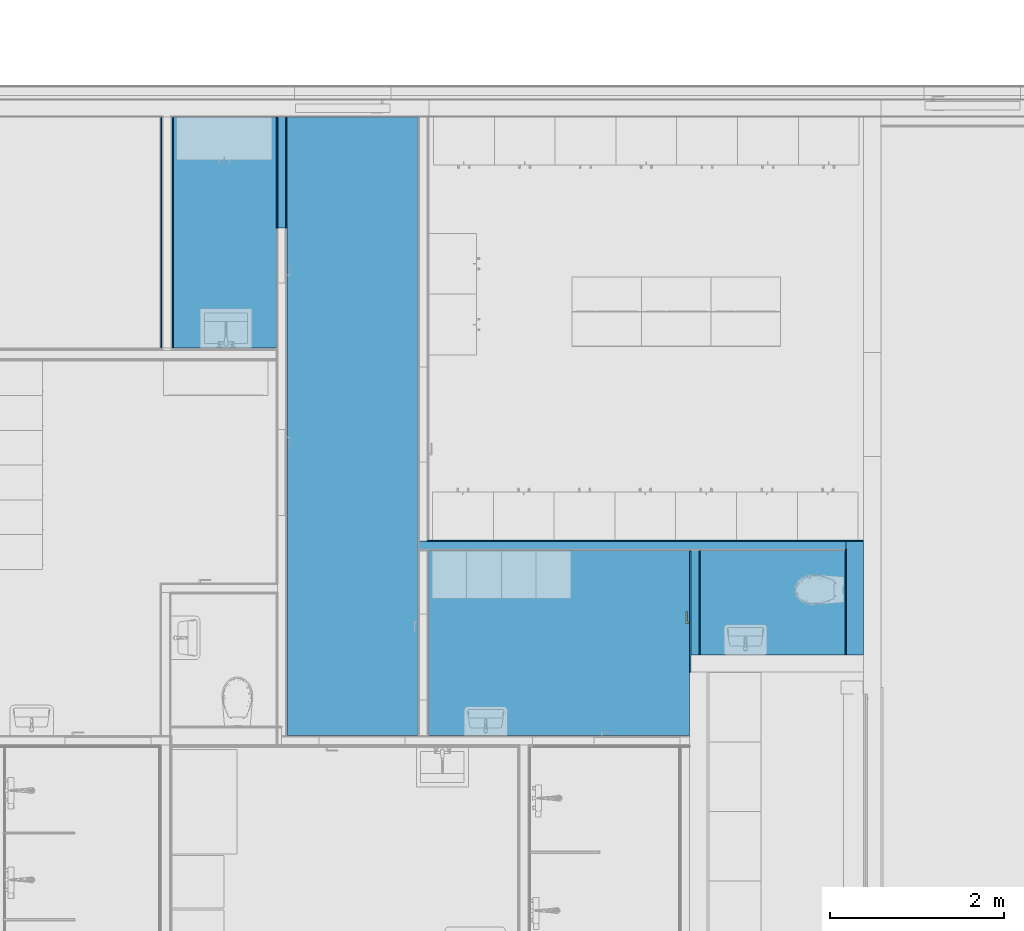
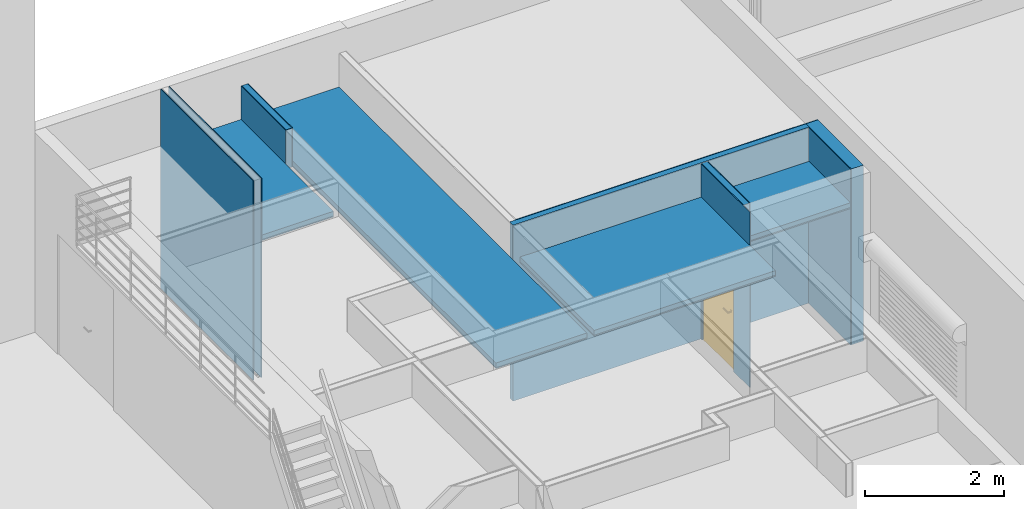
# One storey, part 9 of 67: 20 building element parts, 1 door, 1 opening, 9 elements without a shape of their own.
"""IFC4 building model written with IfcOpenShell, lengths in millimetres."""

from ifc_helpers import new_model, entity, si_unit, converted_unit, direction, frame, origin, place, context, subcontext, project, spatial, indexed_curve, outline, extrude, polygons, source, transform, mapped, material, constituent, constituent_set, type_object, type_shapes, element, fill, aggregate, save


model = new_model("IFC4")

# Units and contexts
model_context = context("Model", 3, precision=0.01, world=origin(), true_north=direction((0.0, 1.0)))
body_context = subcontext(model_context, "Body", "Model", "MODEL_VIEW")
ifc_project = project(units=[si_unit("LENGTHUNIT", "METRE", prefix="MILLI"), si_unit("AREAUNIT", "SQUARE_METRE"), si_unit("VOLUMEUNIT", "CUBIC_METRE"), converted_unit("PLANEANGLEUNIT", "DEGREE", entity("IfcPlaneAngleMeasure", 0.017453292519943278), si_unit("PLANEANGLEUNIT", "RADIAN"), dimensions=[0, 0, 0, 0, 0, 0, 0])], contexts=[model_context])

# Site, building, storey
site_placement = place(None, origin())
site = spatial("IfcSite", under=ifc_project, at=site_placement, Name="Tomtens navn", CompositionType="ELEMENT")
building_placement = place(site_placement, origin())
building = spatial("IfcBuilding", under=site, at=building_placement, Name="Byggets navn", CompositionType="ELEMENT")
storey_placement = place(building_placement, origin())
storey = spatial("IfcBuildingStorey", under=building, at=storey_placement, Name="Level 01", CompositionType="ELEMENT", Elevation=2.1993652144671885e-25)

# Door
ifc_material_1 = material(Name="Rustfritt Stål", Category="Metal")
ifc_constituent_1 = constituent(ifc_material_1, Name="Rustfritt Stål", Category="Metal", fraction=0.0019857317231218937)
ifc_material_2 = material(Name="NO_Maling - Hvit", Category="Overflatebehandling")
ifc_constituent_2 = constituent(ifc_material_2, Name="NO_Maling - Hvit", Category="Overflatebehandling", fraction=0.7764080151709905)
ifc_material_3 = material(Name="Hvit", Category="Paint")
ifc_constituent_3 = constituent(ifc_material_3, Name="Hvit", Category="Paint", fraction=0.2216062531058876)
ifc_constituent_set_1 = constituent_set(constituents=[ifc_constituent_1, ifc_constituent_2, ifc_constituent_3])
ifc_constituent_4 = constituent(ifc_material_1, Name="Rustfritt Stål", Category="Metal", fraction=0.0019857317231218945)
ifc_constituent_5 = constituent(ifc_material_2, Name="Panel", Category="Overflatebehandling", fraction=0.7764080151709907)
ifc_constituent_6 = constituent(ifc_material_3, Name="Frame/Mullion", Category="Paint", fraction=0.22160625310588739)
ifc_constituent_set_2 = constituent_set(constituents=[ifc_constituent_4, ifc_constituent_5, ifc_constituent_6])
door_type = type_object("IfcDoorType", Name="Enfløyet:ID04 Tredør 9x21M", OperationType="SINGLE_SWING_RIGHT", PredefinedType="DOOR", material=ifc_constituent_set_2)
shared_shape = source(origin(), body_context, "Body", "SweptSolid", [
    extrude(outline(indexed_curve([(-50.833333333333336, -33.33333333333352), (-35.83333333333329, -33.33333333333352), (-35.8333333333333, 9.166666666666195), (86.66666666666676, 9.16666666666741), (86.66666666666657, 24.166666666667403), (-50.83333333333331, 24.16666666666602), (-50.833333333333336, -33.33333333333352)], self_intersect=False)), frame((141.33333333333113, 139.9410394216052, 980.5000000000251)), (0.0, 0.0, 1.0), 14.999999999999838),
    extrude(outline(indexed_curve([(-24.999999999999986, -2.7999999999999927), (25.000000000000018, -2.800000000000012), (24.999999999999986, 2.7999999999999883), (-24.99999999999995, 2.8000000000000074), (-24.999999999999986, -2.7999999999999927)], self_intersect=False)), frame((98.0, 103.80000000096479, 850.9862950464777), z_axis=(0.0, 0.0, 1.0), x_axis=(-1.0, 0.0, 0.0)), (0.0, 0.0, 1.0), 159.01370495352),
    extrude(outline(indexed_curve([(-33.33333333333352, -50.83333333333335), (24.16666666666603, -50.83333333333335), (24.166666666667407, 86.66666666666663), (9.166666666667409, 86.6666666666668), (9.16666666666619, -35.83333333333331), (-33.33333333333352, -35.83333333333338), (-33.33333333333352, -50.83333333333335)], self_intersect=False)), frame((141.33333333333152, 22.058960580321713, 980.5000000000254), z_axis=(0.0, 0.0, 1.0), x_axis=(0.0, -1.0, 0.0)), (0.0, 0.0, 1.0), 14.999999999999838),
    extrude(outline(indexed_curve([(-2.800000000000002, -25.00000000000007), (2.799999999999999, -25.00000000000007), (2.8000000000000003, 25.0), (-2.800000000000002, 24.999999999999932), (-2.800000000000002, -25.00000000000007)], self_intersect=False)), frame((98.0, 58.20000000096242, 850.9862950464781), z_axis=(0.0, 0.0, 1.0), x_axis=(0.0, 1.0, 0.0)), (0.0, 0.0, 1.0), 159.01370495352),
    extrude(outline(indexed_curve([(-20.0, -406.9999999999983), (20.0, -406.9999999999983), (20.0, 406.9999999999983), (-20.0, 406.9999999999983), (-20.0, -406.9999999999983)], self_intersect=False)), frame((455.0, 81.0, 10.0), z_axis=(0.0, 0.0, 1.0), x_axis=(0.0, 1.0, 0.0)), (0.0, 0.0, 1.0), 2042.0),
    extrude(outline(indexed_curve([(-1035.4999999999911, -444.9999999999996), (1054.4999999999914, -444.99999999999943), (1054.4999999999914, 444.99999999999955), (-1035.4999999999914, 444.99999999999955), (-1035.4999999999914, 406.9999999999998), (1016.4999999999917, 406.9999999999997), (1016.4999999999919, -406.99999999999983), (-1035.4999999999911, -406.9999999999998), (-1035.4999999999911, -444.9999999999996)], self_intersect=False)), frame((455.0, 1.0, 1035.4999999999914), z_axis=(0.0, 1.0, 0.0), x_axis=(0.0, 0.0, 1.0)), (0.0, 0.0, 1.0), 99.99999999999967),
])
type_shapes(door_type, [shared_shape])
wall_2_placement = place(storey_placement, frame((66683.35352810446, 16670.466456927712, 0.0), z_axis=(0.0, 0.0, 1.0), x_axis=(0.0, 1.0, 0.0)))
opening_placement = place(wall_2_placement, frame((270.0, -60.49999999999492, 0.0)))
door_placement = place(opening_placement, origin())
door = element("IfcDoor", 1, at=door_placement, inside=storey, type_object=door_type, material=ifc_constituent_set_1, Name="Enfløyet:ID04 Tredør 9x21M", OverallHeight=2110.000000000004, OverallWidth=909.9999999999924, PredefinedType="DOOR", context=body_context, shape_type="MappedRepresentation", body=[
    mapped(shared_shape, transform((0.0, 0.0, 0.0), scale=1.0)),
])

# Wall, building element parts
wall_type_1 = type_object("IfcWallType", Name="Basic Wall:IV03 Gips Stender Forestia 120mm", PredefinedType="STANDARD")
wall_1_placement = place(storey_placement, frame((68411.85352810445, 17930.966456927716, 0.0), z_axis=(0.0, 0.0, 1.0), x_axis=(-1.0, 0.0, 0.0)))
wall_1 = element("IfcWall", 2, at=wall_1_placement, inside=storey, type_object=wall_type_1, Name="Basic Wall:IV03 Gips Stender Forestia 120mm", PredefinedType="NOTDEFINED")
ifc_material_4 = material(Name="Stender", Category="Unassigned")
building_element_part_1_placement = place(wall_1_placement, origin())
building_element_part_1 = element("IfcBuildingElementPart", 3, at=building_element_part_1_placement, material=ifc_material_4, Name="Stender", context=body_context, shape_type="SweptSolid", body=[
    extrude(outline(indexed_curve([(-47.49999999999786, -2458.4999999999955), (47.500000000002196, -2458.4999999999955), (47.50000000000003, 2458.499999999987), (-47.50000000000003, 2458.499999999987), (-47.49999999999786, -2458.4999999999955)], self_intersect=False)), frame((2445.4999999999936, 0.0, 0.0), z_axis=(0.0, 0.0, 1.0), x_axis=(0.0, 1.0, 0.0)), (0.0, 0.0, 1.0), 3087.999999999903),
])
ifc_material_5 = material(Name="NO_platekledning forestia", Category="Tre")
building_element_part_2_placement = place(wall_1_placement, origin())
building_element_part_2 = element("IfcBuildingElementPart", 4, at=building_element_part_2_placement, material=ifc_material_5, Name="NO_platekledning forestia", context=body_context, shape_type="SweptSolid", body=[
    extrude(outline(indexed_curve([(-6.500000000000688, -2509.9999999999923), (6.500000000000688, -2509.9999999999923), (6.499999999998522, 2509.9999999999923), (-6.500000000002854, 2509.9999999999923), (-6.500000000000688, -2509.9999999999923)], self_intersect=False)), frame((2299.0, -54.0, 0.0), z_axis=(0.0, 0.0, 1.0), x_axis=(0.0, 1.0, 0.0)), (0.0, 0.0, 1.0), 3087.999999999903),
])
aggregate(wall_1, [building_element_part_1, building_element_part_2])

# Space
space_1_placement = place(storey_placement, origin())
space_1 = spatial("IfcSpace", under=storey, at=space_1_placement, CompositionType="ELEMENT", PredefinedType="NOTDEFINED")

# Covering, building element parts
covering_type = type_object("IfcCoveringType", Name="Compound Ceiling:H01 257_Systemhimling 600x600, tykkelse 100", PredefinedType="CEILING")
covering_1_placement = place(space_1_placement, origin())
covering_1 = element("IfcCovering", 5, at=covering_1_placement, inside=space_1, type_object=covering_type, Name="Compound Ceiling:H01 257_Systemhimling 600x600, tykkelse 100", PredefinedType="CEILING")
ifc_material_6 = material(Name="NO_Himling (type ikke bestemt)", Category="Diverse")
building_element_part_3_placement = place(covering_1_placement, origin())
building_element_part_3 = element("IfcBuildingElementPart", 6, at=building_element_part_3_placement, material=ifc_material_6, Name="NO_Himling (type ikke bestemt)", context=body_context, shape_type="SweptSolid", body=[
    extrude(outline(indexed_curve([(-1065.2500000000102, -1503.500000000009), (1065.2500000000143, -1503.500000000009), (1065.2500000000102, 1503.5000000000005), (-1065.2500000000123, 1503.5000000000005), (-1065.2500000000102, -1503.500000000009)], self_intersect=False)), frame((65119.35352810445, 16805.21645692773, 2420.0), z_axis=(0.0, 0.0, 1.0), x_axis=(0.0, -1.0, 0.0)), (0.0, 0.0, 1.0), 79.99999999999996),
])
ifc_material_7 = material(Name="NO_Himling 600x600", Category="Diverse")
building_element_part_4_placement = place(covering_1_placement, origin())
building_element_part_4 = element("IfcBuildingElementPart", 7, at=building_element_part_4_placement, material=ifc_material_7, Name="NO_Himling 600x600", context=body_context, shape_type="SweptSolid", body=[
    extrude(outline(indexed_curve([(-1065.2500000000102, -1503.500000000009), (1065.2500000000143, -1503.500000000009), (1065.2500000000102, 1503.5000000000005), (-1065.2500000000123, 1503.5000000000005), (-1065.2500000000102, -1503.500000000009)], self_intersect=False)), frame((65119.35352810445, 16805.21645692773, 2400.0), z_axis=(0.0, 0.0, 1.0), x_axis=(0.0, -1.0, 0.0)), (0.0, 0.0, 1.0), 20.000000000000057),
])
aggregate(covering_1, [building_element_part_3, building_element_part_4])

# Space
space_2_placement = place(storey_placement, origin())
space_2 = spatial("IfcSpace", under=storey, at=space_2_placement, CompositionType="ELEMENT", PredefinedType="NOTDEFINED")

# Covering, building element parts
covering_2_placement = place(space_2_placement, origin())
covering_2 = element("IfcCovering", 8, at=covering_2_placement, inside=space_2, type_object=covering_type, Name="Compound Ceiling:H01 257_Systemhimling 600x600, tykkelse 100", PredefinedType="CEILING")
building_element_part_5_placement = place(covering_2_placement, origin())
building_element_part_5 = element("IfcBuildingElementPart", 9, at=building_element_part_5_placement, material=ifc_material_6, Name="NO_Himling (type ikke bestemt)", context=body_context, shape_type="SweptSolid", body=[
    extrude(outline(indexed_curve([(-3560.7499999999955, -754.2499999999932), (3560.749999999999, -754.2499999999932), (3560.7499999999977, 754.2499999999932), (-3560.749999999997, 754.2499999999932), (-3560.7499999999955, -754.2499999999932)], self_intersect=False)), frame((62740.60352810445, 19300.716456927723, 2420.0), z_axis=(0.0, 0.0, 1.0), x_axis=(0.0, -1.0, 0.0)), (0.0, 0.0, 1.0), 79.99999999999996),
])
building_element_part_6_placement = place(covering_2_placement, origin())
building_element_part_6 = element("IfcBuildingElementPart", 10, at=building_element_part_6_placement, material=ifc_material_7, Name="NO_Himling 600x600", context=body_context, shape_type="SweptSolid", body=[
    extrude(outline(indexed_curve([(-3560.7499999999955, -754.2499999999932), (3560.749999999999, -754.2499999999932), (3560.7499999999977, 754.2499999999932), (-3560.749999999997, 754.2499999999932), (-3560.7499999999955, -754.2499999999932)], self_intersect=False)), frame((62740.60352810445, 19300.716456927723, 2400.0), z_axis=(0.0, 0.0, 1.0), x_axis=(0.0, -1.0, 0.0)), (0.0, 0.0, 1.0), 20.000000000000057),
])
aggregate(covering_2, [building_element_part_5, building_element_part_6])

# Wall, opening
wall_type_2 = type_object("IfcWallType", Name="Basic Wall:IV02 Gips Stender Gips-120mm", PredefinedType="STANDARD")
wall_2 = element("IfcWall", 11, at=wall_2_placement, inside=storey, type_object=wall_type_2, Name="Basic Wall:IV02 Gips Stender Gips-120mm", PredefinedType="NOTDEFINED")
opening = element("IfcOpeningElement", 12, at=opening_placement, cuts=wall_2, Name="Enfløyet:ID04 Tredør 9x21M:1", PredefinedType="OPENING", context=body_context, shape_type="SweptSolid", body=[
    extrude(outline(indexed_curve([(0.0, 909.9999999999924), (0.0, -7.845706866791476e-30), (2110.000000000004, -7.845706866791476e-30), (2110.000000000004, 909.9999999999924), (0.0, 909.9999999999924)], self_intersect=False)), frame((0.0, 0.0, 0.0), z_axis=(0.0, 1.0, 0.0), x_axis=(0.0, 0.0, 1.0)), (0.0, 0.0, 1.0), 120.99999999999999),
])

fill(opening, door)

# Building element part
building_element_part_7_placement = place(wall_2_placement, frame((0.0, 47.49999999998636, 0.0)))
building_element_part_7 = element("IfcBuildingElementPart", 13, at=building_element_part_7_placement, material=ifc_material_4, Name="Stender", context=body_context, shape_type="Tessellation", body=[
    polygons([(270.0000000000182, 1.1586655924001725e-12, 7.331217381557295e-26), (0.0, 9.082677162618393e-13, 7.331217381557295e-26), (0.0, 9.082677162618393e-13, 3079.9999999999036), (1213.0000000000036, 2.0332033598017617e-12, 3079.9999999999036), (1213.0000000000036, 2.0332033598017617e-12, 7.331217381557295e-26), (1180.000000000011, 2.0025991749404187e-12, 7.331217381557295e-26), (1180.0000000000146, 2.002599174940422e-12, 2110.000000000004), (270.0000000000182, 1.1586655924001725e-12, 2110.000000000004), (0.0, -94.99999999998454, 7.331217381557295e-26), (270.0000000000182, -94.99999999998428, 7.331217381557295e-26), (1213.0000000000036, -94.99999999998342, 3079.9999999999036), (0.0, -94.99999999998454, 3079.9999999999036), (1180.000000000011, -94.99999999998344, 7.331217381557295e-26), (1180.0000000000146, -94.99999999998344, 2110.000000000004), (270.0000000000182, -94.99999999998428, 2110.000000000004), (1213.0000000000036, -94.99999999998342, 7.331217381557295e-26)], [[[1, 2, 3, 4, 5, 6, 7, 8]], [[9, 2, 1, 10]], [[11, 4, 3, 12]], [[6, 13, 14, 7]], [[7, 14, 15, 8]], [[10, 1, 8, 15]], [[2, 9, 12, 3]], [[5, 16, 13, 6]], [[9, 10, 15, 14, 13, 16, 11, 12]], [[16, 5, 4, 11]]], closed=True),
])

ifc_material_8 = material(Name="Gipsplater", Category="NOR ^ Gips")
building_element_part_8_placement = place(wall_2_placement, frame((-200.0, 60.50000000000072, 0.0)))
building_element_part_8 = element("IfcBuildingElementPart", 14, at=building_element_part_8_placement, material=ifc_material_8, Name="Gipsplater", context=body_context, shape_type="Tessellation", body=[
    polygons([(-3.637978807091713e-12, 1.5274703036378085e-11, 2.1993652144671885e-25), (470.00000000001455, 1.5710580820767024e-11, 2.1993652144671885e-25), (470.00000000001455, -12.999999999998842, 7.331217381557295e-26), (-3.637978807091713e-12, -12.999999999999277, 7.331217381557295e-26), (1400.0000000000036, 1.6573062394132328e-11, 3079.9999999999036), (-3.637978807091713e-12, 1.5274703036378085e-11, 3079.9999999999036), (0.0, -12.999999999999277, 3079.9999999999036), (1400.0000000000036, -12.999999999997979, 3079.9999999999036), (1380.0000000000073, 1.655451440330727e-11, 2110.000000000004), (1380.0000000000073, 1.655451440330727e-11, 2.1993652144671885e-25), (1380.0000000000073, -12.999999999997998, 7.331217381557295e-26), (1380.000000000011, -12.999999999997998, 2110.000000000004), (470.00000000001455, 1.5710580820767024e-11, 2110.000000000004), (470.00000000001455, -12.999999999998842, 2110.000000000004), (1400.0000000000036, 1.6573062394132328e-11, 2.1993652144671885e-25), (1400.0000000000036, -12.999999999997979, 7.331217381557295e-26)], [[[1, 2, 3, 4]], [[5, 6, 7, 8]], [[9, 10, 11, 12]], [[13, 9, 12, 14]], [[2, 13, 14, 3]], [[15, 5, 8, 16]], [[10, 15, 16, 11]], [[4, 3, 14, 12, 11, 16, 8, 7]], [[6, 5, 15, 10, 9, 13, 2, 1]], [[6, 1, 4, 7]]], closed=True),
])

building_element_part_9_placement = place(wall_2_placement, frame((0.0, -47.49999999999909, 0.0)))
building_element_part_9 = element("IfcBuildingElementPart", 15, at=building_element_part_9_placement, material=ifc_material_8, Name="Gipsplater", context=body_context, shape_type="Tessellation", body=[
    polygons([(270.0000000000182, 1.5710580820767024e-11, 7.331217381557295e-26), (0.0, 1.546018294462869e-11, 7.331217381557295e-26), (0.0, 1.546018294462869e-11, 3079.9999999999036), (1200.0000000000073, 1.6573062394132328e-11, 3079.9999999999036), (1200.0000000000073, 1.6573062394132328e-11, 7.331217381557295e-26), (1180.000000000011, 1.655451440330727e-11, 7.331217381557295e-26), (1180.0000000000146, 1.6554514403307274e-11, 2110.000000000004), (270.0000000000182, 1.5710580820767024e-11, 2110.000000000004), (1200.0000000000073, -12.999999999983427, 3079.9999999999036), (0.0, -12.99999999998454, 3079.9999999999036), (0.0, -12.99999999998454, 2.1993652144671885e-25), (270.0000000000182, -12.99999999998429, 2.1993652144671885e-25), (270.0000000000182, -12.99999999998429, 2110.000000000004), (1180.000000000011, -12.999999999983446, 2110.000000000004), (1180.000000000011, -12.999999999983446, 2.1993652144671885e-25), (1200.0000000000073, -12.999999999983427, 2.1993652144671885e-25)], [[[1, 2, 3, 4, 5, 6, 7, 8]], [[9, 10, 11, 12, 13, 14, 15, 16]], [[12, 11, 2, 1]], [[10, 9, 4, 3]], [[15, 14, 7, 6]], [[14, 13, 8, 7]], [[13, 12, 1, 8]], [[11, 10, 3, 2]], [[9, 16, 5, 4]], [[16, 15, 6, 5]]], closed=True),
])

aggregate(wall_2, [building_element_part_7, building_element_part_8, building_element_part_9])

# Wall, building element parts
wall_type_3 = type_object("IfcWallType", Name="Basic Wall:IV16 -Utforing Gips 198Stender 13+198", PredefinedType="STANDARD")
wall_3_placement = place(storey_placement, frame((68517.35352810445, 16670.466456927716, 0.0), z_axis=(0.0, 0.0, 1.0), x_axis=(0.0, 1.0, 0.0)))
wall_3 = element("IfcWall", 16, at=wall_3_placement, inside=storey, type_object=wall_type_3, Name="Basic Wall:IV16 -Utforing Gips 198Stender 13+198", PredefinedType="NOTDEFINED")
ifc_material_9 = material(Name="NO_Konstruksjon - Isolert", Category="Tre")
building_element_part_10_placement = place(wall_3_placement, origin())
building_element_part_10 = element("IfcBuildingElementPart", 17, at=building_element_part_10_placement, material=ifc_material_9, Name="NO_Konstruksjon - Isolert", context=body_context, shape_type="SweptSolid", body=[
    extrude(outline(indexed_curve([(-654.0000000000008, -99.00000000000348), (654.0000000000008, -99.00000000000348), (654.0000000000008, 98.99999999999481), (-654.0000000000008, 98.99999999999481), (-654.0000000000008, -99.00000000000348)], self_intersect=False)), frame((654.0, -6.500000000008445, 0.0), z_axis=(0.0, 0.0, 1.0), x_axis=(-1.0, 0.0, 0.0)), (0.0, 0.0, 1.0), 3087.999999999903),
])
building_element_part_11_placement = place(wall_3_placement, origin())
building_element_part_11 = element("IfcBuildingElementPart", 18, at=building_element_part_11_placement, material=ifc_material_8, Name="Gipsplater", context=body_context, shape_type="SweptSolid", body=[
    extrude(outline(indexed_curve([(-606.5000000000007, -6.500000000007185), (606.5000000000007, -6.500000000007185), (606.5000000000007, 6.499999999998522), (-606.5000000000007, 6.499999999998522), (-606.5000000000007, -6.500000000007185)], self_intersect=False)), frame((606.5000000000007, 99.0, 0.0), z_axis=(0.0, 0.0, 1.0), x_axis=(-1.0, 0.0, 0.0)), (0.0, 0.0, 1.0), 3087.999999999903),
])
aggregate(wall_3, [building_element_part_10, building_element_part_11])

# Space
space_3_placement = place(storey_placement, origin())
space_3 = spatial("IfcSpace", under=storey, at=space_3_placement, CompositionType="ELEMENT", PredefinedType="NOTDEFINED")

# Covering, building element parts
covering_3_placement = place(space_3_placement, origin())
covering_3 = element("IfcCovering", 19, at=covering_3_placement, inside=space_3, type_object=covering_type, Name="Compound Ceiling:H01 257_Systemhimling 600x600, tykkelse 100", PredefinedType="CEILING")
building_element_part_12_placement = place(covering_3_placement, origin())
building_element_part_12 = element("IfcBuildingElementPart", 20, at=building_element_part_12_placement, material=ifc_material_6, Name="NO_Himling (type ikke bestemt)", context=body_context, shape_type="SweptSolid", body=[
    extrude(outline(indexed_curve([(-600.0000000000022, -833.9999999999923), (600.0, -833.9999999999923), (600.0, 833.9999999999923), (-600.0000000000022, 833.9999999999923), (-600.0000000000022, -833.9999999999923)], self_intersect=False)), frame((67577.85352810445, 17270.466456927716, 2420.0), z_axis=(0.0, 0.0, 1.0), x_axis=(0.0, -1.0, 0.0)), (0.0, 0.0, 1.0), 79.99999999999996),
])
building_element_part_13_placement = place(covering_3_placement, origin())
building_element_part_13 = element("IfcBuildingElementPart", 21, at=building_element_part_13_placement, material=ifc_material_7, Name="NO_Himling 600x600", context=body_context, shape_type="SweptSolid", body=[
    extrude(outline(indexed_curve([(-600.0000000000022, -833.9999999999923), (600.0, -833.9999999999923), (600.0, 833.9999999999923), (-600.0000000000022, 833.9999999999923), (-600.0000000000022, -833.9999999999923)], self_intersect=False)), frame((67577.85352810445, 17270.466456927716, 2400.0), z_axis=(0.0, 0.0, 1.0), x_axis=(0.0, -1.0, 0.0)), (0.0, 0.0, 1.0), 20.000000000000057),
])
aggregate(covering_3, [building_element_part_12, building_element_part_13])

# Wall, building element parts
wall_4_placement = place(storey_placement, frame((61925.85352810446, 21581.966456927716, 2401.049662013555), z_axis=(0.0, 0.0, 1.0), x_axis=(0.0, 1.0, 0.0)))
wall_4 = element("IfcWall", 22, at=wall_4_placement, inside=storey, type_object=wall_type_2, Name="Basic Wall:IV02 Gips Stender Gips-120mm", PredefinedType="NOTDEFINED")
building_element_part_14_placement = place(wall_4_placement, origin())
building_element_part_14 = element("IfcBuildingElementPart", 23, at=building_element_part_14_placement, material=ifc_material_4, Name="Stender", context=body_context, shape_type="SweptSolid", body=[
    extrude(outline(indexed_curve([(-639.4500000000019, -47.49999999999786), (639.4500000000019, -47.49999999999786), (639.4500000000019, 47.49999999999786), (-639.4500000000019, 47.49999999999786), (-639.4500000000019, -47.49999999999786)], self_intersect=False)), frame((639.4500000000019, 0.0, 0.0), z_axis=(0.0, 0.0, 1.0), x_axis=(-1.0, 0.0, 0.0)), (0.0, 0.0, 1.0), 686.9503379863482),
])
building_element_part_15_placement = place(wall_4_placement, origin())
building_element_part_15 = element("IfcBuildingElementPart", 24, at=building_element_part_15_placement, material=ifc_material_8, Name="Gipsplater", context=body_context, shape_type="SweptSolid", body=[
    extrude(outline(indexed_curve([(-639.4500000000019, -6.499999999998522), (639.4500000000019, -6.499999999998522), (639.4500000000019, 6.500000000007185), (-639.4500000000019, 6.500000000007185), (-639.4500000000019, -6.499999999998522)], self_intersect=False)), frame((639.4500000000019, 54.0, 0.0), z_axis=(0.0, 0.0, 1.0), x_axis=(-1.0, 0.0, 0.0)), (0.0, 0.0, 1.0), 686.9503379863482),
])
building_element_part_16_placement = place(wall_4_placement, origin())
building_element_part_16 = element("IfcBuildingElementPart", 25, at=building_element_part_16_placement, material=ifc_material_8, Name="Gipsplater", context=body_context, shape_type="SweptSolid", body=[
    extrude(outline(indexed_curve([(-639.4500000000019, -6.499999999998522), (639.4500000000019, -6.499999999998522), (639.4500000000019, 6.499999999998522), (-639.4500000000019, 6.499999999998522), (-639.4500000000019, -6.499999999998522)], self_intersect=False)), frame((639.4500000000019, -54.0, 0.0), z_axis=(0.0, 0.0, 1.0), x_axis=(-1.0, 0.0, 0.0)), (0.0, 0.0, 1.0), 686.9503379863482),
])
aggregate(wall_4, [building_element_part_14, building_element_part_15, building_element_part_16])

wall_type_4 = type_object("IfcWallType", Name="Basic Wall:IV01 - Gipsx2 Stender Gipsx2-147mm", PredefinedType="STANDARD")
wall_5_placement = place(storey_placement, frame((60604.85352810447, 20201.466456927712, 0.0), z_axis=(0.0, 0.0, 1.0), x_axis=(0.0, 1.0, 0.0)))
wall_5 = element("IfcWall", 26, at=wall_5_placement, inside=storey, type_object=wall_type_4, Name="Basic Wall:IV01 - Gipsx2 Stender Gipsx2-147mm", PredefinedType="NOTDEFINED")
building_element_part_17_placement = place(wall_5_placement, origin())
building_element_part_17 = element("IfcBuildingElementPart", 27, at=building_element_part_17_placement, material=ifc_material_8, Name="Gipsplater", context=body_context, shape_type="SweptSolid", body=[
    extrude(outline(indexed_curve([(-1329.9999999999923, -6.499999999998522), (1330.0000000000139, -6.499999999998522), (1330.0000000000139, 6.499999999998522), (-1329.9999999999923, 6.499999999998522), (-1329.9999999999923, -6.499999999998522)], self_intersect=False)), frame((1330.0, 67.0, 0.0), z_axis=(0.0, 0.0, 1.0), x_axis=(-1.0, 0.0, 0.0)), (0.0, 0.0, 1.0), 3499.999999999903),
])
building_element_part_18_placement = place(wall_5_placement, origin())
building_element_part_18 = element("IfcBuildingElementPart", 28, at=building_element_part_18_placement, material=ifc_material_8, Name="Gipsplater", context=body_context, shape_type="SweptSolid", body=[
    extrude(outline(indexed_curve([(-1329.9999999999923, -6.499999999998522), (1330.0000000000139, -6.499999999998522), (1330.0000000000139, 6.499999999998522), (-1329.9999999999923, 6.499999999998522), (-1329.9999999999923, -6.499999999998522)], self_intersect=False)), frame((1330.0, -67.0, 0.0), z_axis=(0.0, 0.0, 1.0), x_axis=(-1.0, 0.0, 0.0)), (0.0, 0.0, 1.0), 3499.999999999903),
])
aggregate(wall_5, [building_element_part_17, building_element_part_18])

# Space
space_4_placement = place(storey_placement, origin())
space_4 = spatial("IfcSpace", under=storey, at=space_4_placement, CompositionType="ELEMENT", PredefinedType="NOTDEFINED")

# Covering, building element parts
covering_4_placement = place(space_4_placement, origin())
covering_4 = element("IfcCovering", 29, at=covering_4_placement, inside=space_4, type_object=covering_type, Name="Compound Ceiling:H01 257_Systemhimling 600x600, tykkelse 100", PredefinedType="CEILING")
building_element_part_19_placement = place(covering_4_placement, origin())
building_element_part_19 = element("IfcBuildingElementPart", 30, at=building_element_part_19_placement, material=ifc_material_6, Name="NO_Himling (type ikke bestemt)", context=body_context, shape_type="SweptSolid", body=[
    extrude(outline(indexed_curve([(-1330.0000000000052, -593.4999999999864), (1330.0000000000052, -593.4999999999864), (1330.0000000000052, 593.499999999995), (-1330.0000000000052, 593.499999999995), (-1330.0000000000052, -593.4999999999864)], self_intersect=False)), frame((61271.85352810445, 21531.466456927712, 2420.0), z_axis=(0.0, 0.0, 1.0), x_axis=(0.0, -1.0, 0.0)), (0.0, 0.0, 1.0), 79.99999999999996),
])
building_element_part_20_placement = place(covering_4_placement, origin())
building_element_part_20 = element("IfcBuildingElementPart", 31, at=building_element_part_20_placement, material=ifc_material_7, Name="NO_Himling 600x600", context=body_context, shape_type="SweptSolid", body=[
    extrude(outline(indexed_curve([(-1330.0000000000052, -593.4999999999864), (1330.0000000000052, -593.4999999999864), (1330.0000000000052, 593.499999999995), (-1330.0000000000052, 593.499999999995), (-1330.0000000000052, -593.4999999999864)], self_intersect=False)), frame((61271.85352810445, 21531.466456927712, 2400.0), z_axis=(0.0, 0.0, 1.0), x_axis=(0.0, -1.0, 0.0)), (0.0, 0.0, 1.0), 20.000000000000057),
])
aggregate(covering_4, [building_element_part_19, building_element_part_20])

save(model, "model.ifc")
